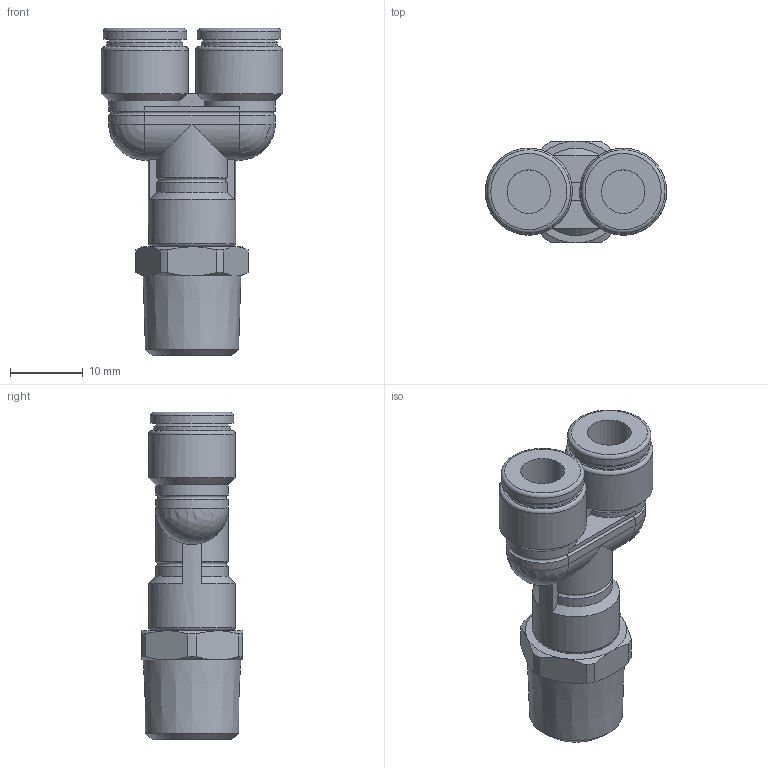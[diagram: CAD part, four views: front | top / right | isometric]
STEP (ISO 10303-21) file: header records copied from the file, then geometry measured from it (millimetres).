
FILE_DESCRIPTION(/* description */ (''),/* implementation_level */ '2;1');
FILE_NAME(/* name */ 'E:\2013年度版　3D-DATA\【02】 TOUCH CONNECTOR FIVE SUS\[04] MALE BRANCH Y\[06] FS6-02MY FS6-02MYW.stp',/* time_stamp */ '2013-08-06T16:57:19+09:00',/* author */ ('takahashi-pc2'),/* organization */ (''),/* preprocessor_version */ 'ST-DEVELOPER v15.2',/* originating_system */ 'Autodesk Inventor 2014',/* authorisation */ '');
FILE_SCHEMA (('AUTOMOTIVE_DESIGN { 1 0 10303 214 3 1 1 }'));
Length unit declared in the file: millimetre
Products named in the file (1): [06] FS6-02MY FS6-02MYW
Bounding box: 25 x 14 x 45.1 mm (x, y, z)
Volume: 6222.3 mm3; surface area: 3409.5 mm2
Topology: 1 solids, 1 shells, 88 faces, 200 edges, 118 vertices
Faces by surface type: plane 30, cylinder 27, cone 20, torus 9, sphere 2
Full cylindrical faces by diameter (mm): 6 x2, 10.5 x2, 11.5 x2, 12 x3
Entity records: 2357 total; most frequent: CARTESIAN_POINT 521, DIRECTION 398, ORIENTED_EDGE 350, EDGE_CURVE 175, AXIS2_PLACEMENT_3D 172, VERTEX_POINT 115, EDGE_LOOP 114, ADVANCED_FACE 88
